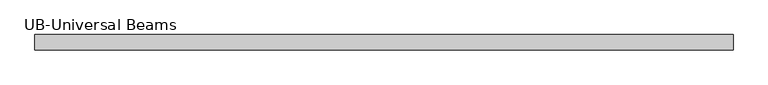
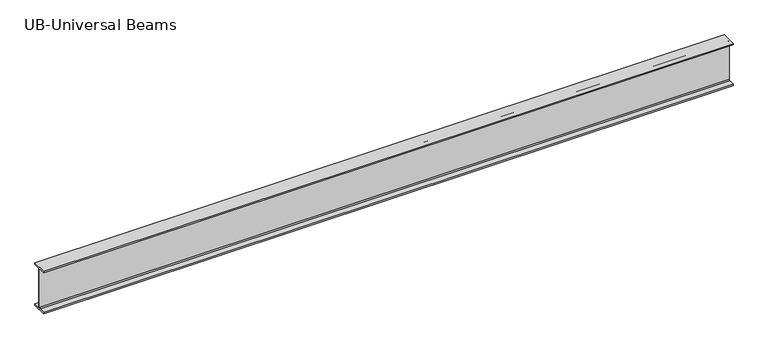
"""IFC4 building model written with IfcOpenShell, lengths in millimetres: beam geometry."""

from ifc_helpers import new_model, si_unit, point, frame, frame_2d, origin, place, context, project, spatial, polyline, circle_curve, trimmed, segment, composite_curve, outline, extrude, source, transform, mapped, element, save


def ub_universal_beams_a95554c7(model_context):
    return source(origin(), model_context, "Body", "SweptSolid", [
        extrude(outline(composite_curve([segment(polyline([(76.9, -214.0), (76.9, -229.0), (-76.9, -229.0), (-76.9, -214.0), (-14.7, -214.0)]), True, "CONTINUOUS"), segment(trimmed(circle_curve(frame_2d((-14.7, -203.8)), 10.2), [point((-14.7, -214.0))], [point((-4.5, -203.8))], True, "CARTESIAN"), True, "CONTINUOUS"), segment(polyline([(-4.5, -203.8), (-4.5, 203.8)]), True, "CONTINUOUS"), segment(trimmed(circle_curve(frame_2d((-14.7, 203.8)), 10.2), [point((-4.5, 203.8))], [point((-14.7, 214.0))], True, "CARTESIAN"), True, "CONTINUOUS"), segment(polyline([(-14.7, 214.0), (-76.9, 214.0), (-76.9, 229.0), (76.9, 229.0), (76.9, 214.0), (14.7, 214.0)]), True, "CONTINUOUS"), segment(trimmed(circle_curve(frame_2d((14.7, 203.8)), 10.2), [point((14.7, 214.0))], [point((4.5, 203.8))], True, "CARTESIAN"), True, "CONTINUOUS"), segment(polyline([(4.5, 203.8), (4.5, -203.8)]), True, "CONTINUOUS"), segment(trimmed(circle_curve(frame_2d((14.7, -203.8)), 10.2), [point((4.5, -203.8))], [point((14.7, -214.0))], True, "CARTESIAN"), True, "CONTINUOUS"), segment(polyline([(14.7, -214.0), (76.9, -214.0)]), True, "CONTINUOUS")], self_intersect=False)), frame((-3529.4, 0.0, 0.0), z_axis=(1.0, 0.0, 0.0), x_axis=(0.0, 1.0, 0.0)), (0.0, 0.0, 1.0), 7058.8),
    ])


if __name__ == "__main__":
    model = new_model("IFC4")
    model_context = context("Model", 3, world=origin())
    ifc_project = project(units=[si_unit("LENGTHUNIT", "METRE", prefix="MILLI")], contexts=[model_context])
    site = spatial("IfcSite", under=ifc_project)
    building = spatial("IfcBuilding", under=site)
    placement = place(None, origin())
    ub_universal_beams_shape = ub_universal_beams_a95554c7(model_context)
    element("IfcBeam", 1, ObjectType="UB-Universal Beams : UB 18\" x 6\" x 2 1/2\"", at=placement, inside=building, context=model_context, shape_type="MappedRepresentation", body=[
        mapped(ub_universal_beams_shape, transform((0.0, 0.0, 0.0), x_axis=(1.0, 0.0, 0.0), y_axis=(0.0, 1.0, 0.0), z_axis=(0.0, 0.0, 1.0))),
    ])
    save(model, "model.ifc")
